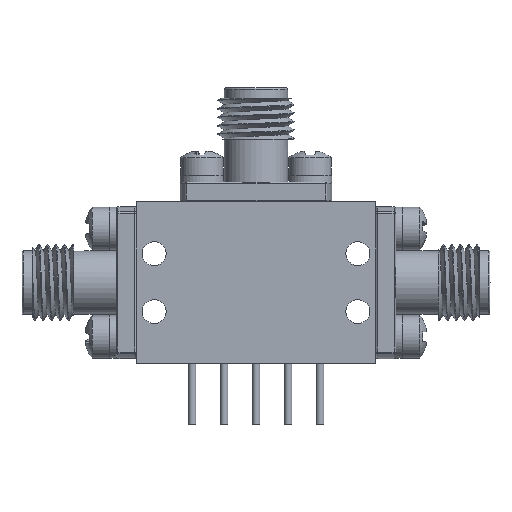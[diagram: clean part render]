
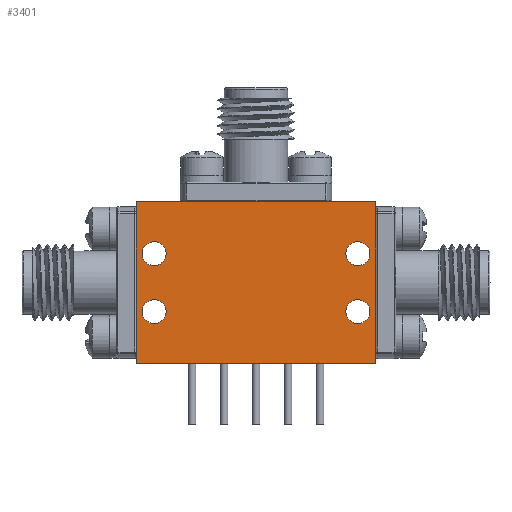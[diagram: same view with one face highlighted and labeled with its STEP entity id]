
A CAD part, front view. The second image highlights one B-rep face of the part: STEP entity #3401.
In plain terms, the highlighted planar face has unit normal (0, -1, 0).
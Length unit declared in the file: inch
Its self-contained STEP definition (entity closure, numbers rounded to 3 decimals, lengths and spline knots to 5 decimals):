
#775 = DIRECTION ( 'NONE',  ( 0., 0., 1. ) ) ;
#878 = EDGE_LOOP ( 'NONE', ( #36105, #28032, #15096, #39534 ) ) ;
#1003 = FACE_BOUND ( 'NONE', #16921, .T. ) ;
#1394 = CARTESIAN_POINT ( 'NONE',  ( 0., -0.315, 0. ) ) ;
#1603 = DIRECTION ( 'NONE',  ( 0., 0., 1. ) ) ;
#1807 = FACE_BOUND ( 'NONE', #9139, .T. ) ;
#1898 = EDGE_LOOP ( 'NONE', ( #24683 ) ) ;
#3109 = EDGE_CURVE ( 'NONE', #6763, #8092, #25088, .T. ) ;
#3401 = ADVANCED_FACE ( 'NONE', ( #1003, #20127, #1807, #14052, #39126 ), #29049, .F. ) ;
#3707 = CARTESIAN_POINT ( 'NONE',  ( -0.3935, -0.315, 0.2655 ) ) ;
#3971 = CARTESIAN_POINT ( 'NONE',  ( -0.3935, -0.315, 0.2655 ) ) ;
#4732 = CARTESIAN_POINT ( 'NONE',  ( -0.3935, -0.315, -0.2655 ) ) ;
#4932 = ORIENTED_EDGE ( 'NONE', *, *, #23875, .T. ) ;
#5478 = CIRCLE ( 'NONE', #10590, 0.03925 ) ;
#5602 = CARTESIAN_POINT ( 'NONE',  ( -0.3935, -0.315, -0.2655 ) ) ;
#6763 = VERTEX_POINT ( 'NONE', #3971 ) ;
#7183 = CARTESIAN_POINT ( 'NONE',  ( 0.3935, -0.315, -0.2655 ) ) ;
#7537 = CARTESIAN_POINT ( 'NONE',  ( -0.3345, -0.315, -0.05575 ) ) ;
#8035 = AXIS2_PLACEMENT_3D ( 'NONE', #15152, #27724, #30759 ) ;
#8092 = VERTEX_POINT ( 'NONE', #22726 ) ;
#8356 = EDGE_CURVE ( 'NONE', #17946, #11038, #32406, .T. ) ;
#9131 = VERTEX_POINT ( 'NONE', #18176 ) ;
#9139 = EDGE_LOOP ( 'NONE', ( #4932 ) ) ;
#10123 = CARTESIAN_POINT ( 'NONE',  ( -0.3345, -0.315, -0.095 ) ) ;
#10590 = AXIS2_PLACEMENT_3D ( 'NONE', #33921, #30655, #27236 ) ;
#11038 = VERTEX_POINT ( 'NONE', #15923 ) ;
#11367 = EDGE_CURVE ( 'NONE', #16761, #16761, #20041, .T. ) ;
#13602 = DIRECTION ( 'NONE',  ( 0., 0., 1. ) ) ;
#13634 = EDGE_CURVE ( 'NONE', #17946, #6763, #20513, .T. ) ;
#14041 = CARTESIAN_POINT ( 'NONE',  ( -0.3935, -0.315, -0.2655 ) ) ;
#14052 = FACE_BOUND ( 'NONE', #18152, .T. ) ;
#15096 = ORIENTED_EDGE ( 'NONE', *, *, #25455, .T. ) ;
#15152 = CARTESIAN_POINT ( 'NONE',  ( -0.3345, -0.315, 0.095 ) ) ;
#15923 = CARTESIAN_POINT ( 'NONE',  ( 0.3935, -0.315, -0.2655 ) ) ;
#15953 = EDGE_CURVE ( 'NONE', #16967, #16967, #25445, .T. ) ;
#16761 = VERTEX_POINT ( 'NONE', #7537 ) ;
#16921 = EDGE_LOOP ( 'NONE', ( #23864 ) ) ;
#16967 = VERTEX_POINT ( 'NONE', #29359 ) ;
#17946 = VERTEX_POINT ( 'NONE', #5602 ) ;
#18152 = EDGE_LOOP ( 'NONE', ( #24654 ) ) ;
#18176 = CARTESIAN_POINT ( 'NONE',  ( 0.3345, -0.315, -0.05575 ) ) ;
#19184 = DIRECTION ( 'NONE',  ( 0., 1., 0. ) ) ;
#19578 = DIRECTION ( 'NONE',  ( 0., 0., 1. ) ) ;
#19654 = LINE ( 'NONE', #7183, #22605 ) ;
#20041 = CIRCLE ( 'NONE', #39437, 0.03925 ) ;
#20127 = FACE_BOUND ( 'NONE', #1898, .T. ) ;
#20320 = DIRECTION ( 'NONE',  ( 0., 0., 1. ) ) ;
#20513 = LINE ( 'NONE', #14041, #29184 ) ;
#21465 = CIRCLE ( 'NONE', #24046, 0.03925 ) ;
#21857 = DIRECTION ( 'NONE',  ( 1., 0., 0. ) ) ;
#22605 = VECTOR ( 'NONE', #13602, 39.37008 ) ;
#22726 = CARTESIAN_POINT ( 'NONE',  ( 0.3935, -0.315, 0.2655 ) ) ;
#23472 = AXIS2_PLACEMENT_3D ( 'NONE', #1394, #26216, #20320 ) ;
#23864 = ORIENTED_EDGE ( 'NONE', *, *, #11367, .T. ) ;
#23875 = EDGE_CURVE ( 'NONE', #9131, #9131, #5478, .T. ) ;
#24046 = AXIS2_PLACEMENT_3D ( 'NONE', #32053, #28415, #775 ) ;
#24362 = VECTOR ( 'NONE', #29554, 39.37008 ) ;
#24654 = ORIENTED_EDGE ( 'NONE', *, *, #35096, .T. ) ;
#24683 = ORIENTED_EDGE ( 'NONE', *, *, #15953, .T. ) ;
#25088 = LINE ( 'NONE', #3707, #27291 ) ;
#25445 = CIRCLE ( 'NONE', #8035, 0.03925 ) ;
#25455 = EDGE_CURVE ( 'NONE', #11038, #8092, #19654, .T. ) ;
#26216 = DIRECTION ( 'NONE',  ( 0., 1., 0. ) ) ;
#27236 = DIRECTION ( 'NONE',  ( 0., 0., 1. ) ) ;
#27291 = VECTOR ( 'NONE', #21857, 39.37008 ) ;
#27724 = DIRECTION ( 'NONE',  ( 0., 1., 0. ) ) ;
#28032 = ORIENTED_EDGE ( 'NONE', *, *, #8356, .T. ) ;
#28415 = DIRECTION ( 'NONE',  ( 0., 1., 0. ) ) ;
#28519 = CARTESIAN_POINT ( 'NONE',  ( 0.3345, -0.315, 0.13425 ) ) ;
#29049 = PLANE ( 'NONE',  #23472 ) ;
#29184 = VECTOR ( 'NONE', #1603, 39.37008 ) ;
#29359 = CARTESIAN_POINT ( 'NONE',  ( -0.3345, -0.315, 0.13425 ) ) ;
#29554 = DIRECTION ( 'NONE',  ( 1., 0., 0. ) ) ;
#30655 = DIRECTION ( 'NONE',  ( 0., 1., 0. ) ) ;
#30759 = DIRECTION ( 'NONE',  ( 0., 0., 1. ) ) ;
#32053 = CARTESIAN_POINT ( 'NONE',  ( 0.3345, -0.315, 0.095 ) ) ;
#32406 = LINE ( 'NONE', #4732, #24362 ) ;
#33921 = CARTESIAN_POINT ( 'NONE',  ( 0.3345, -0.315, -0.095 ) ) ;
#34576 = VERTEX_POINT ( 'NONE', #28519 ) ;
#35096 = EDGE_CURVE ( 'NONE', #34576, #34576, #21465, .T. ) ;
#36105 = ORIENTED_EDGE ( 'NONE', *, *, #13634, .F. ) ;
#39126 = FACE_OUTER_BOUND ( 'NONE', #878, .T. ) ;
#39437 = AXIS2_PLACEMENT_3D ( 'NONE', #10123, #19184, #19578 ) ;
#39534 = ORIENTED_EDGE ( 'NONE', *, *, #3109, .F. ) ;
